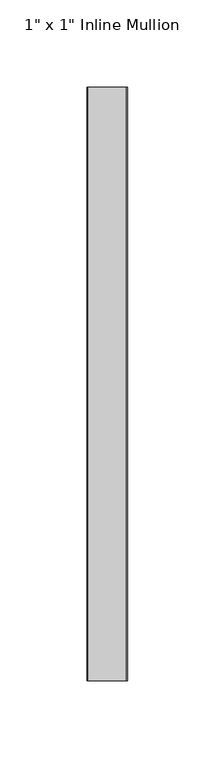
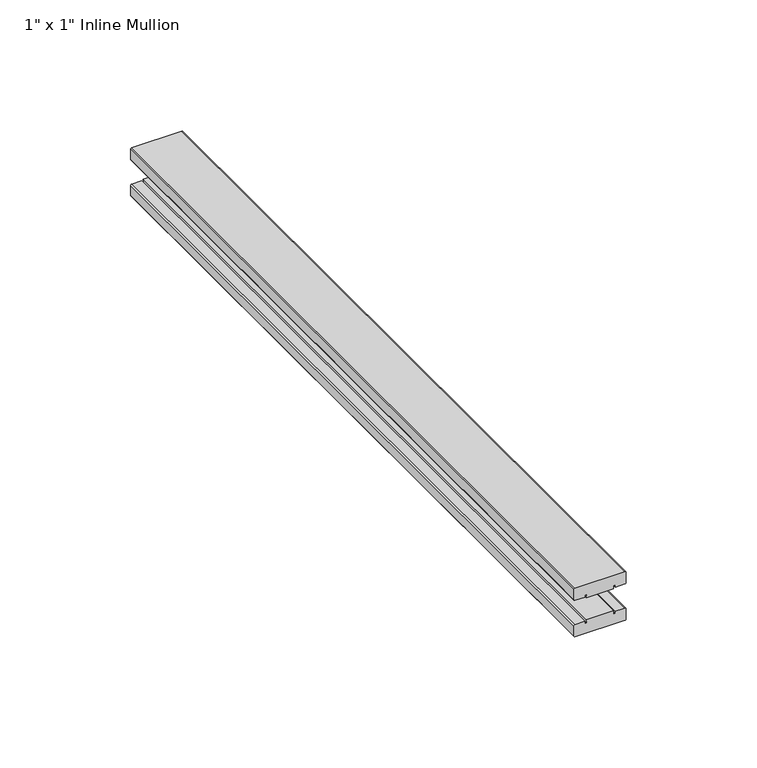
"""IFC4 building model written with IfcOpenShell, lengths in millimetres: proxy geometry."""

from ifc_helpers import new_model, si_unit, point, frame, frame_2d, origin, place, context, project, spatial, polyline, circle_curve, trimmed, segment, composite_curve, outline, extrude, source, transform, mapped, element, save


def proxy_e6fe210e(model_context):
    return source(origin(), model_context, "Body", "SweptSolid", [
        extrude(outline(composite_curve([segment(polyline([(5.64, -11.5), (1.0, -11.5)]), True, "CONTINUOUS"), segment(trimmed(circle_curve(frame_2d((1.0, -11.0)), 0.5), [point((1.0, -11.5))], [point((0.5, -11.0))], False, "CARTESIAN"), True, "CONTINUOUS"), segment(polyline([(0.5, -11.0), (0.5, -6.75), (1.5, -6.75), (1.5, -5.7984177), (0.0, -6.0), (0.0, 6.0), (1.5, 5.7984177), (1.5, 6.75), (0.5, 6.75), (0.5, 11.0)]), True, "CONTINUOUS"), segment(trimmed(circle_curve(frame_2d((1.0, 11.0)), 0.5), [point((0.5, 11.0))], [point((1.0, 11.5))], False, "CARTESIAN"), True, "CONTINUOUS"), segment(polyline([(1.0, 11.5), (5.64, 11.5)]), True, "CONTINUOUS"), segment(trimmed(circle_curve(frame_2d((5.64, 11.0)), 0.5), [point((5.64, 11.5))], [point((6.14, 11.0))], False, "CARTESIAN"), True, "CONTINUOUS"), segment(polyline([(6.14, 11.0), (6.14, -11.0)]), True, "CONTINUOUS"), segment(trimmed(circle_curve(frame_2d((5.64, -11.0)), 0.5), [point((6.14, -11.0))], [point((5.64, -11.5))], False, "CARTESIAN"), True, "CONTINUOUS")], self_intersect=False)), frame((0.0, -169.4525676, 0.0), z_axis=(0.0, 1.0, 0.0), x_axis=(0.0, 0.0, 1.0)), (0.0, 0.0, 1.0), 338.9051351),
        extrude(outline(composite_curve([segment(trimmed(circle_curve(frame_2d((-11.31875, -11.0)), 0.5), [point((-10.81875, -11.0))], [point((-11.31875, -11.5))], False, "CARTESIAN"), True, "CONTINUOUS"), segment(polyline([(-11.31875, -11.5), (-15.95875, -11.5)]), True, "CONTINUOUS"), segment(trimmed(circle_curve(frame_2d((-15.95875, -11.0)), 0.5), [point((-15.95875, -11.5))], [point((-16.45875, -11.0))], False, "CARTESIAN"), True, "CONTINUOUS"), segment(polyline([(-16.45875, -11.0), (-16.45875, 11.0)]), True, "CONTINUOUS"), segment(trimmed(circle_curve(frame_2d((-15.95875, 11.0)), 0.5), [point((-16.45875, 11.0))], [point((-15.95875, 11.5))], False, "CARTESIAN"), True, "CONTINUOUS"), segment(polyline([(-15.95875, 11.5), (-11.31875, 11.5)]), True, "CONTINUOUS"), segment(trimmed(circle_curve(frame_2d((-11.31875, 11.0)), 0.5), [point((-11.31875, 11.5))], [point((-10.81875, 11.0))], False, "CARTESIAN"), True, "CONTINUOUS"), segment(polyline([(-10.81875, 11.0), (-10.81875, 6.75), (-11.81875, 6.75), (-11.81875, 5.7984177), (-10.31875, 6.0), (-10.31875, -6.0), (-11.81875, -5.7984177), (-11.81875, -6.75), (-10.81875, -6.75), (-10.81875, -11.0)]), True, "CONTINUOUS")], self_intersect=False)), frame((0.0, -169.4525676, 0.0), z_axis=(0.0, 1.0, 0.0), x_axis=(0.0, 0.0, 1.0)), (0.0, 0.0, 1.0), 338.9051351),
    ])


if __name__ == "__main__":
    model = new_model("IFC4")
    model_context = context("Model", 3, world=origin())
    ifc_project = project(units=[si_unit("LENGTHUNIT", "METRE", prefix="MILLI")], contexts=[model_context])
    site = spatial("IfcSite", under=ifc_project)
    building = spatial("IfcBuilding", under=site)
    placement = place(None, origin())
    proxy_shape = proxy_e6fe210e(model_context)
    element("IfcBuildingElementProxy", 1, Name="Frame-Teknion-Architectural_Complements-FCMN_1x1_Mullion-R2016 : 1\" x 1\" Inline Mullion", ObjectType="Frame-Teknion-Architectural_Complements-FCMN_1x1_Mullion-R2016 : 1\" x 1\" Inline Mullion", at=placement, inside=building, context=model_context, shape_type="MappedRepresentation", body=[
        mapped(proxy_shape, transform((0.0, 0.0, 0.0), x_axis=(1.0, 0.0, 0.0), y_axis=(0.0, 1.0, 0.0), z_axis=(0.0, 0.0, 1.0))),
    ])
    save(model, "model.ifc")
